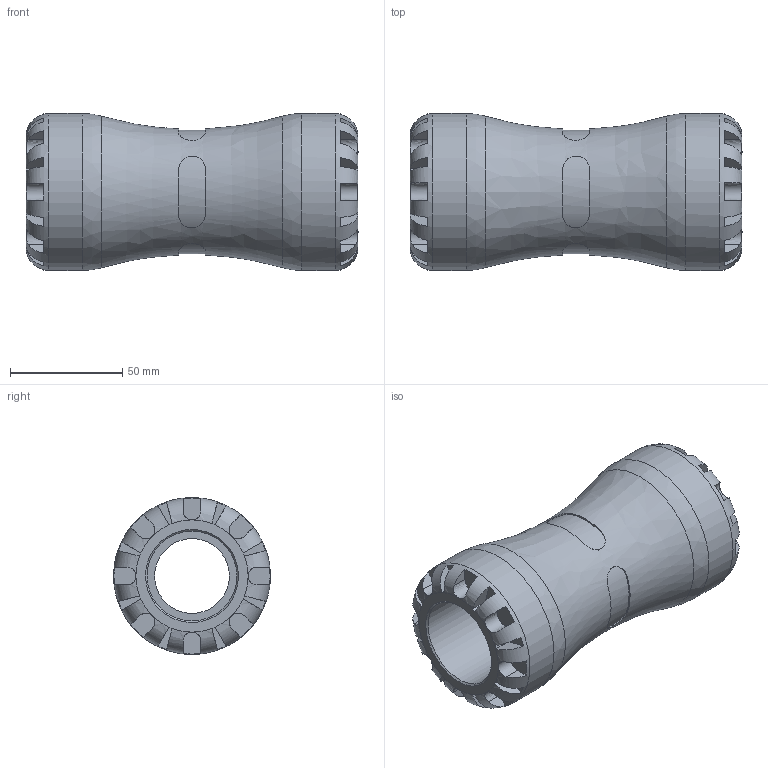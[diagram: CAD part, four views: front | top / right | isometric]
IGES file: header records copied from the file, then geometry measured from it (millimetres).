
Global section: file name: 150100040; native system: Autodesk Inventor 2019; preprocessor: unknown; author: KIM; date: 20231017.191316; units: millimetre
Bounding box: 148 x 70 x 70 mm (x, y, z)
Volume: 280820.2 mm3; surface area: 56572.4 mm2
Topology: 1 solids, 1 shells, 164 faces, 431 edges, 274 vertices
Faces by surface type: bspline 164
